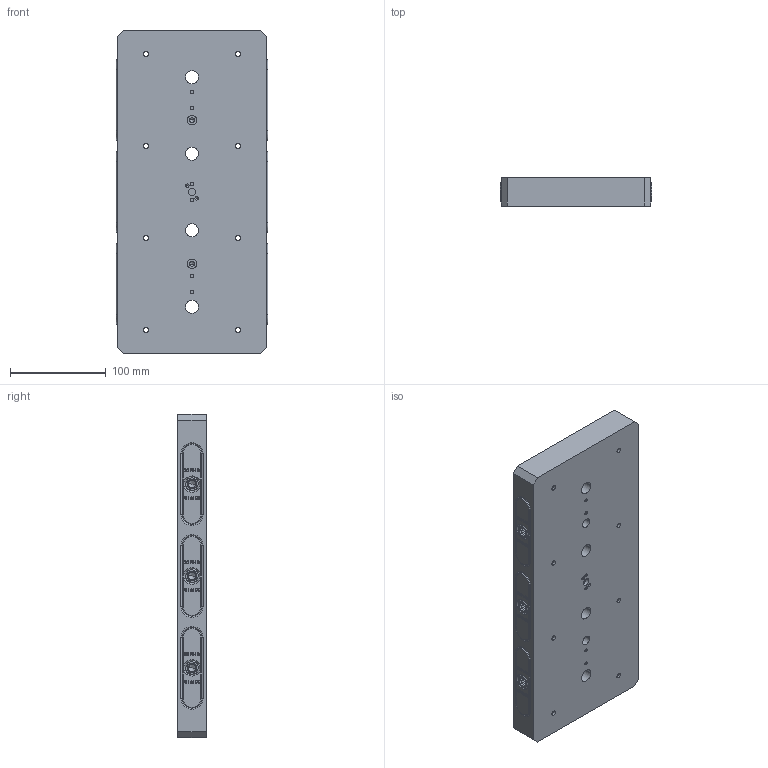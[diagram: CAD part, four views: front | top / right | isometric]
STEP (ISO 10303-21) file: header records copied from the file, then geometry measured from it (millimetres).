
FILE_DESCRIPTION (( 'STEP AP214' ), '1' );
FILE_NAME ('RL96A-3613S2.STEP', '2019-04-29T16:27:35', ( '' ), ( '' ), 'SwSTEP 2.0', 'SolidWorks 2018', '' );
FILE_SCHEMA (( 'AUTOMOTIVE_DESIGN' ));
Length unit declared in the file: inch
Products named in the file (9): RL96-4; RL96-3; RL96-2R; RL96-2L; RL96-1613S2A; RL96A-3613S2; RockLock Double Position; RL96-6_95258A216; RL96-5
Assembly tree (31 placements, depth 3):
  RL96A-3613S2
    RL96-1613S2A
    RockLock Double Position
      RL96-2L  x3
      RL96-2R  x3
      RL96-3  x3
      RL96-4  x8
      RL96-5  x6
      RL96-6_95258A216  x6
Bounding box: 158 x 30 x 338 mm (x, y, z)
Volume: 1361314.1 mm3; surface area: 302570.4 mm2
Topology: 30 solids, 30 shells, 2450 faces, 6140 edges, 3922 vertices
Faces by surface type: plane 1225, cylinder 588, bspline 309, cone 228, torus 100
Entity records: 40166 total; most frequent: CARTESIAN_POINT 14964, ORIENTED_EDGE 5124, DIRECTION 4855, EDGE_CURVE 2562, AXIS2_PLACEMENT_3D 1733, VERTEX_POINT 1644, LINE 1389, VECTOR 1389
